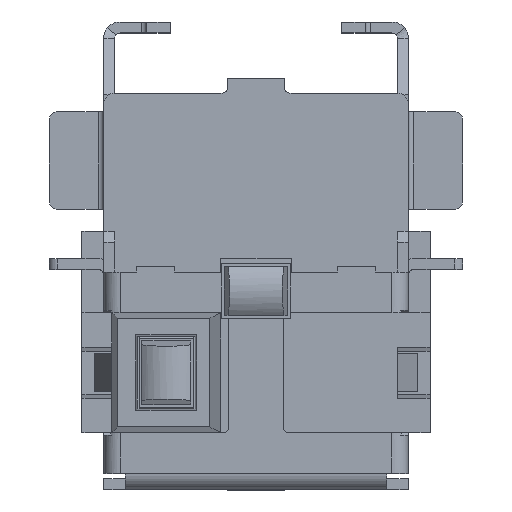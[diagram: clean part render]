
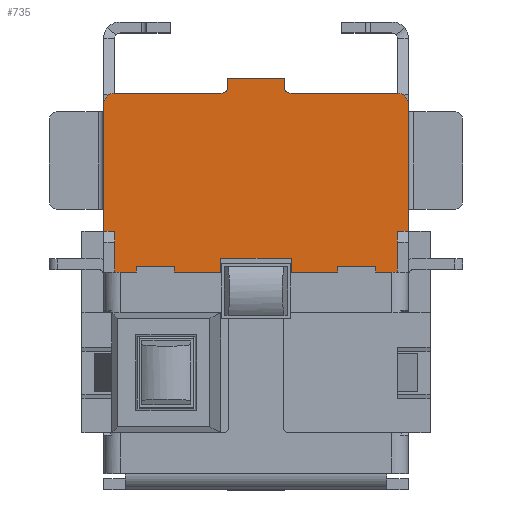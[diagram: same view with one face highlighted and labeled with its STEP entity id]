
A CAD part, top view. The second image highlights one B-rep face of the part: STEP entity #735.
In plain terms, the highlighted planar face has unit normal (0, 0, 1).
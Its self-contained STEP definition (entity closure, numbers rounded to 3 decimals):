
#735 = ADVANCED_FACE( '', ( #1574 ), #1575, .T. );
#1574 = FACE_OUTER_BOUND( '', #2574, .T. );
#1575 = PLANE( '', #2575 );
#2574 = EDGE_LOOP( '', ( #4568, #4569, #4570, #4571, #4572, #4573, #4574, #4575, #4576, #4577, #4578, #4579, #4580, #4581, #4582, #4583 ) );
#2575 = AXIS2_PLACEMENT_3D( '', #4584, #4585, #4586 );
#4568 = ORIENTED_EDGE( '', *, *, #6250, .F. );
#4569 = ORIENTED_EDGE( '', *, *, #6781, .T. );
#4570 = ORIENTED_EDGE( '', *, *, #6846, .F. );
#4571 = ORIENTED_EDGE( '', *, *, #6769, .T. );
#4572 = ORIENTED_EDGE( '', *, *, #6847, .F. );
#4573 = ORIENTED_EDGE( '', *, *, #6848, .F. );
#4574 = ORIENTED_EDGE( '', *, *, #6179, .T. );
#4575 = ORIENTED_EDGE( '', *, *, #6849, .F. );
#4576 = ORIENTED_EDGE( '', *, *, #6459, .T. );
#4577 = ORIENTED_EDGE( '', *, *, #6682, .F. );
#4578 = ORIENTED_EDGE( '', *, *, #6850, .T. );
#4579 = ORIENTED_EDGE( '', *, *, #6102, .T. );
#4580 = ORIENTED_EDGE( '', *, *, #6246, .F. );
#4581 = ORIENTED_EDGE( '', *, *, #6709, .T. );
#4582 = ORIENTED_EDGE( '', *, *, #6489, .T. );
#4583 = ORIENTED_EDGE( '', *, *, #6368, .F. );
#4584 = CARTESIAN_POINT( '', ( 0., 0.17, 2.15 ) );
#4585 = DIRECTION( '', ( 0., 0., 1. ) );
#4586 = DIRECTION( '', ( 0., -1., 0. ) );
#6102 = EDGE_CURVE( '', #7325, #7326, #7327, .T. );
#6179 = EDGE_CURVE( '', #7463, #7464, #7465, .T. );
#6246 = EDGE_CURVE( '', #7583, #7326, #7585, .T. );
#6250 = EDGE_CURVE( '', #7590, #7592, #7593, .T. );
#6368 = EDGE_CURVE( '', #7592, #7791, #7792, .T. );
#6459 = EDGE_CURVE( '', #7939, #7937, #7940, .T. );
#6489 = EDGE_CURVE( '', #7984, #7791, #7985, .T. );
#6682 = EDGE_CURVE( '', #8285, #7937, #8287, .T. );
#6709 = EDGE_CURVE( '', #7583, #7984, #8324, .T. );
#6769 = EDGE_CURVE( '', #8405, #8403, #8406, .F. );
#6781 = EDGE_CURVE( '', #7590, #8418, #8420, .T. );
#6846 = EDGE_CURVE( '', #8405, #8418, #8511, .T. );
#6847 = EDGE_CURVE( '', #8512, #8403, #8513, .T. );
#6848 = EDGE_CURVE( '', #7463, #8512, #8514, .T. );
#6849 = EDGE_CURVE( '', #7939, #7464, #8515, .F. );
#6850 = EDGE_CURVE( '', #8285, #7325, #8516, .T. );
#7325 = VERTEX_POINT( '', #9107 );
#7326 = VERTEX_POINT( '', #9108 );
#7327 = LINE( '', #9109, #9110 );
#7463 = VERTEX_POINT( '', #9305 );
#7464 = VERTEX_POINT( '', #9306 );
#7465 = LINE( '', #9307, #9308 );
#7583 = VERTEX_POINT( '', #9469 );
#7585 = LINE( '', #9471, #9472 );
#7590 = VERTEX_POINT( '', #9478 );
#7592 = VERTEX_POINT( '', #9481 );
#7593 = LINE( '', #9482, #9483 );
#7791 = VERTEX_POINT( '', #9773 );
#7792 = LINE( '', #9774, #9775 );
#7937 = VERTEX_POINT( '', #9981 );
#7939 = VERTEX_POINT( '', #9984 );
#7940 = LINE( '', #9985, #9986 );
#7984 = VERTEX_POINT( '', #10049 );
#7985 = LINE( '', #10050, #10051 );
#8285 = VERTEX_POINT( '', #10493 );
#8287 = CIRCLE( '', #10496, 0.2 );
#8324 = LINE( '', #10547, #10548 );
#8403 = VERTEX_POINT( '', #10664 );
#8405 = VERTEX_POINT( '', #10667 );
#8406 = CIRCLE( '', #10668, 0.1 );
#8418 = VERTEX_POINT( '', #10685 );
#8420 = CIRCLE( '', #10688, 0.2 );
#8511 = LINE( '', #10825, #10826 );
#8512 = VERTEX_POINT( '', #10827 );
#8513 = LINE( '', #10828, #10829 );
#8514 = LINE( '', #10830, #10831 );
#8515 = CIRCLE( '', #10832, 0.1 );
#8516 = LINE( '', #10833, #10834 );
#9107 = CARTESIAN_POINT( '', ( -2.8, 0.339, 2.15 ) );
#9108 = CARTESIAN_POINT( '', ( -2.4, 0.339, 2.15 ) );
#9109 = CARTESIAN_POINT( '', ( -2.4, 0.339, 2.15 ) );
#9110 = VECTOR( '', #11544, 1000. );
#9305 = CARTESIAN_POINT( '', ( -0.525, 3.909, 2.15 ) );
#9306 = CARTESIAN_POINT( '', ( -0.525, 3.739, 2.15 ) );
#9307 = CARTESIAN_POINT( '', ( -0.525, 3.909, 2.15 ) );
#9308 = VECTOR( '', #11622, 1000. );
#9469 = CARTESIAN_POINT( '', ( -2.4, 0.3, 2.15 ) );
#9471 = CARTESIAN_POINT( '', ( -2.4, 0.17, 2.15 ) );
#9472 = VECTOR( '', #11699, 1000. );
#9478 = CARTESIAN_POINT( '', ( 2.8, 3.439, 2.15 ) );
#9481 = CARTESIAN_POINT( '', ( 2.8, 0.339, 2.15 ) );
#9482 = CARTESIAN_POINT( '', ( 2.8, 0.339, 2.15 ) );
#9483 = VECTOR( '', #11702, 1000. );
#9773 = CARTESIAN_POINT( '', ( 2.4, 0.339, 2.15 ) );
#9774 = CARTESIAN_POINT( '', ( 2.4, 0.339, 2.15 ) );
#9775 = VECTOR( '', #11807, 1000. );
#9981 = CARTESIAN_POINT( '', ( -2.6, 3.639, 2.15 ) );
#9984 = CARTESIAN_POINT( '', ( -0.625, 3.639, 2.15 ) );
#9985 = CARTESIAN_POINT( '', ( -2.8, 3.639, 2.15 ) );
#9986 = VECTOR( '', #11903, 1000. );
#10049 = CARTESIAN_POINT( '', ( 2.4, 0.3, 2.15 ) );
#10050 = CARTESIAN_POINT( '', ( 2.4, 0.17, 2.15 ) );
#10051 = VECTOR( '', #11932, 1000. );
#10493 = CARTESIAN_POINT( '', ( -2.8, 3.439, 2.15 ) );
#10496 = AXIS2_PLACEMENT_3D( '', #12118, #12119, #12120 );
#10547 = CARTESIAN_POINT( '', ( 0., 0.3, 2.15 ) );
#10548 = VECTOR( '', #12147, 1000. );
#10664 = CARTESIAN_POINT( '', ( 0.525, 3.739, 2.15 ) );
#10667 = CARTESIAN_POINT( '', ( 0.625, 3.639, 2.15 ) );
#10668 = AXIS2_PLACEMENT_3D( '', #12198, #12199, #12200 );
#10685 = CARTESIAN_POINT( '', ( 2.6, 3.639, 2.15 ) );
#10688 = AXIS2_PLACEMENT_3D( '', #12210, #12211, #12212 );
#10825 = CARTESIAN_POINT( '', ( 2.8, 3.639, 2.15 ) );
#10826 = VECTOR( '', #12268, 1000. );
#10827 = CARTESIAN_POINT( '', ( 0.525, 3.909, 2.15 ) );
#10828 = CARTESIAN_POINT( '', ( 0.525, 3.909, 2.15 ) );
#10829 = VECTOR( '', #12269, 1000. );
#10830 = CARTESIAN_POINT( '', ( -0.5, 3.909, 2.15 ) );
#10831 = VECTOR( '', #12270, 1000. );
#10832 = AXIS2_PLACEMENT_3D( '', #12271, #12272, #12273 );
#10833 = CARTESIAN_POINT( '', ( -2.8, 0.339, 2.15 ) );
#10834 = VECTOR( '', #12274, 1000. );
#11544 = DIRECTION( '', ( 1., 0., 0. ) );
#11622 = DIRECTION( '', ( 0., -1., 0. ) );
#11699 = DIRECTION( '', ( 0., 1., 0. ) );
#11702 = DIRECTION( '', ( 0., -1., 0. ) );
#11807 = DIRECTION( '', ( -1., 0., 0. ) );
#11903 = DIRECTION( '', ( -1., 0., 0. ) );
#11932 = DIRECTION( '', ( 0., 1., 0. ) );
#12118 = CARTESIAN_POINT( '', ( -2.6, 3.439, 2.15 ) );
#12119 = DIRECTION( '', ( 0., 0., -1. ) );
#12120 = DIRECTION( '', ( 0., -1., 0. ) );
#12147 = DIRECTION( '', ( 1., 0., 0. ) );
#12198 = CARTESIAN_POINT( '', ( 0.625, 3.739, 2.15 ) );
#12199 = DIRECTION( '', ( 0., 0., 1. ) );
#12200 = DIRECTION( '', ( 0., -1., 0. ) );
#12210 = CARTESIAN_POINT( '', ( 2.6, 3.439, 2.15 ) );
#12211 = DIRECTION( '', ( 0., 0., 1. ) );
#12212 = DIRECTION( '', ( 0., -1., 0. ) );
#12268 = DIRECTION( '', ( 1., 0., 0. ) );
#12269 = DIRECTION( '', ( 0., -1., 0. ) );
#12270 = DIRECTION( '', ( 1., 0., 0. ) );
#12271 = CARTESIAN_POINT( '', ( -0.625, 3.739, 2.15 ) );
#12272 = DIRECTION( '', ( 0., 0., -1. ) );
#12273 = DIRECTION( '', ( 0., -1., 0. ) );
#12274 = DIRECTION( '', ( 0., -1., 0. ) );
